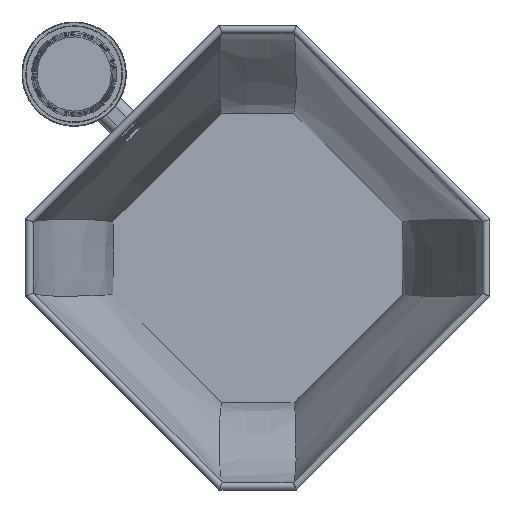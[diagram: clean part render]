
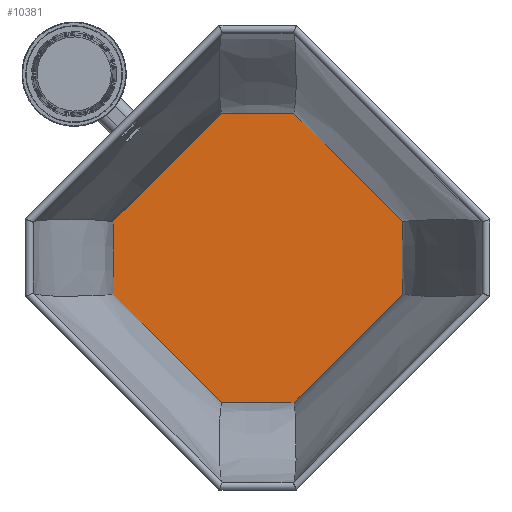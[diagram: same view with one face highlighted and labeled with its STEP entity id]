
A CAD part, top view. The second image highlights one B-rep face of the part: STEP entity #10381.
In plain terms, the highlighted planar face has unit normal (0, 0, 1).
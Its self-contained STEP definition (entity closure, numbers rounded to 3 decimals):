
#833=PLANE('',#11559);
#1330=FACE_OUTER_BOUND('',#1946,.T.);
#1946=EDGE_LOOP('',(#9669,#9670,#9671,#9672,#9673,#9674,#9675,#9676));
#2124=B_SPLINE_CURVE_WITH_KNOTS('',3,(#21186,#21187,#21188,#21189,#21190,
#21191),.UNSPECIFIED.,.F.,.F.,(4,2,4),(0.08,1.204,
2.328),.UNSPECIFIED.);
#2128=B_SPLINE_CURVE_WITH_KNOTS('',3,(#21224,#21225,#21226,#21227,#21228,
#21229),.UNSPECIFIED.,.F.,.F.,(4,2,4),(0.075,3.102,
6.129),.UNSPECIFIED.);
#2130=B_SPLINE_CURVE_WITH_KNOTS('',3,(#21253,#21254,#21255,#21256,#21257,
#21258),.UNSPECIFIED.,.F.,.F.,(4,2,4),(0.075,3.102,
6.129),.UNSPECIFIED.);
#2136=B_SPLINE_CURVE_WITH_KNOTS('',3,(#21304,#21305,#21306,#21307,#21308,
#21309),.UNSPECIFIED.,.F.,.F.,(4,2,4),(0.075,3.102,
6.129),.UNSPECIFIED.);
#2138=B_SPLINE_CURVE_WITH_KNOTS('',3,(#21333,#21334,#21335,#21336,#21337,
#21338),.UNSPECIFIED.,.F.,.F.,(4,2,4),(0.08,1.204,
2.328),.UNSPECIFIED.);
#2140=B_SPLINE_CURVE_WITH_KNOTS('',3,(#21362,#21363,#21364,#21365,#21366,
#21367),.UNSPECIFIED.,.F.,.F.,(4,2,4),(0.075,3.102,
6.129),.UNSPECIFIED.);
#2143=B_SPLINE_CURVE_WITH_KNOTS('',3,(#21395,#21396,#21397,#21398,#21399,
#21400),.UNSPECIFIED.,.F.,.F.,(4,2,4),(0.08,1.204,
2.328),.UNSPECIFIED.);
#2145=B_SPLINE_CURVE_WITH_KNOTS('',3,(#21423,#21424,#21425,#21426,#21427,
#21428),.UNSPECIFIED.,.F.,.F.,(4,2,4),(0.08,1.204,
2.328),.UNSPECIFIED.);
#5031=VERTEX_POINT('',#21178);
#5032=VERTEX_POINT('',#21185);
#5034=VERTEX_POINT('',#21223);
#5035=VERTEX_POINT('',#21252);
#5039=VERTEX_POINT('',#21296);
#5040=VERTEX_POINT('',#21303);
#5041=VERTEX_POINT('',#21332);
#5042=VERTEX_POINT('',#21361);
#6581=EDGE_CURVE('',#5032,#5031,#2124,.T.);
#6585=EDGE_CURVE('',#5034,#5032,#2128,.T.);
#6587=EDGE_CURVE('',#5031,#5035,#2130,.T.);
#6593=EDGE_CURVE('',#5040,#5039,#2136,.T.);
#6595=EDGE_CURVE('',#5041,#5040,#2138,.T.);
#6597=EDGE_CURVE('',#5042,#5041,#2140,.T.);
#6600=EDGE_CURVE('',#5035,#5042,#2143,.T.);
#6602=EDGE_CURVE('',#5039,#5034,#2145,.T.);
#9669=ORIENTED_EDGE('',*,*,#6593,.T.);
#9670=ORIENTED_EDGE('',*,*,#6602,.T.);
#9671=ORIENTED_EDGE('',*,*,#6585,.T.);
#9672=ORIENTED_EDGE('',*,*,#6581,.T.);
#9673=ORIENTED_EDGE('',*,*,#6587,.T.);
#9674=ORIENTED_EDGE('',*,*,#6600,.T.);
#9675=ORIENTED_EDGE('',*,*,#6597,.T.);
#9676=ORIENTED_EDGE('',*,*,#6595,.T.);
#10381=ADVANCED_FACE('',(#1330),#833,.T.);
#11559=AXIS2_PLACEMENT_3D('',#21765,#14518,#14519);
#14518=DIRECTION('center_axis',(0.,0.,1.));
#14519=DIRECTION('ref_axis',(1.,0.,0.));
#21178=CARTESIAN_POINT('',(-59.987,-5.299,1.35));
#21185=CARTESIAN_POINT('',(-59.987,17.175,1.35));
#21186=CARTESIAN_POINT('Ctrl Pts',(-59.987,17.175,1.35));
#21187=CARTESIAN_POINT('Ctrl Pts',(-59.987,13.429,1.35));
#21188=CARTESIAN_POINT('Ctrl Pts',(-59.987,9.683,1.35));
#21189=CARTESIAN_POINT('Ctrl Pts',(-59.987,2.192,1.35));
#21190=CARTESIAN_POINT('Ctrl Pts',(-59.987,-1.553,
1.35));
#21191=CARTESIAN_POINT('Ctrl Pts',(-59.987,-5.299,1.35));
#21223=CARTESIAN_POINT('',(-17.175,59.987,1.35));
#21224=CARTESIAN_POINT('Ctrl Pts',(-17.175,59.987,1.35));
#21225=CARTESIAN_POINT('Ctrl Pts',(-24.31,52.852,1.35));
#21226=CARTESIAN_POINT('Ctrl Pts',(-31.446,45.716,1.35));
#21227=CARTESIAN_POINT('Ctrl Pts',(-45.716,31.446,1.35));
#21228=CARTESIAN_POINT('Ctrl Pts',(-52.852,24.31,1.35));
#21229=CARTESIAN_POINT('Ctrl Pts',(-59.987,17.175,1.35));
#21252=CARTESIAN_POINT('',(-17.175,-48.112,1.35));
#21253=CARTESIAN_POINT('Ctrl Pts',(-59.987,-5.299,1.35));
#21254=CARTESIAN_POINT('Ctrl Pts',(-52.852,-12.434,
1.35));
#21255=CARTESIAN_POINT('Ctrl Pts',(-45.716,-19.57,1.35));
#21256=CARTESIAN_POINT('Ctrl Pts',(-31.446,-33.841,1.35));
#21257=CARTESIAN_POINT('Ctrl Pts',(-24.31,-40.976,
1.35));
#21258=CARTESIAN_POINT('Ctrl Pts',(-17.175,-48.112,1.35));
#21296=CARTESIAN_POINT('',(5.299,59.987,1.35));
#21303=CARTESIAN_POINT('',(48.112,17.175,1.35));
#21304=CARTESIAN_POINT('Ctrl Pts',(48.112,17.175,1.35));
#21305=CARTESIAN_POINT('Ctrl Pts',(40.976,24.31,1.35));
#21306=CARTESIAN_POINT('Ctrl Pts',(33.841,31.446,1.35));
#21307=CARTESIAN_POINT('Ctrl Pts',(19.57,45.716,1.35));
#21308=CARTESIAN_POINT('Ctrl Pts',(12.434,52.852,1.35));
#21309=CARTESIAN_POINT('Ctrl Pts',(5.299,59.987,1.35));
#21332=CARTESIAN_POINT('',(48.112,-5.299,1.35));
#21333=CARTESIAN_POINT('Ctrl Pts',(48.112,-5.299,1.35));
#21334=CARTESIAN_POINT('Ctrl Pts',(48.112,-1.553,1.35));
#21335=CARTESIAN_POINT('Ctrl Pts',(48.112,2.192,1.35));
#21336=CARTESIAN_POINT('Ctrl Pts',(48.112,9.683,1.35));
#21337=CARTESIAN_POINT('Ctrl Pts',(48.112,13.429,1.35));
#21338=CARTESIAN_POINT('Ctrl Pts',(48.112,17.175,1.35));
#21361=CARTESIAN_POINT('',(5.299,-48.112,1.35));
#21362=CARTESIAN_POINT('Ctrl Pts',(5.299,-48.112,1.35));
#21363=CARTESIAN_POINT('Ctrl Pts',(12.434,-40.976,1.35));
#21364=CARTESIAN_POINT('Ctrl Pts',(19.57,-33.841,1.35));
#21365=CARTESIAN_POINT('Ctrl Pts',(33.841,-19.57,1.35));
#21366=CARTESIAN_POINT('Ctrl Pts',(40.976,-12.434,1.35));
#21367=CARTESIAN_POINT('Ctrl Pts',(48.112,-5.299,1.35));
#21395=CARTESIAN_POINT('Ctrl Pts',(-17.175,-48.112,
1.35));
#21396=CARTESIAN_POINT('Ctrl Pts',(-13.429,-48.112,
1.35));
#21397=CARTESIAN_POINT('Ctrl Pts',(-9.683,-48.112,
1.35));
#21398=CARTESIAN_POINT('Ctrl Pts',(-2.192,-48.112,
1.35));
#21399=CARTESIAN_POINT('Ctrl Pts',(1.553,-48.112,1.35));
#21400=CARTESIAN_POINT('Ctrl Pts',(5.299,-48.112,1.35));
#21423=CARTESIAN_POINT('Ctrl Pts',(5.299,59.987,1.35));
#21424=CARTESIAN_POINT('Ctrl Pts',(1.553,59.987,1.35));
#21425=CARTESIAN_POINT('Ctrl Pts',(-2.192,59.987,1.35));
#21426=CARTESIAN_POINT('Ctrl Pts',(-9.683,59.987,1.35));
#21427=CARTESIAN_POINT('Ctrl Pts',(-13.429,59.987,1.35));
#21428=CARTESIAN_POINT('Ctrl Pts',(-17.175,59.987,1.35));
#21765=CARTESIAN_POINT('Origin',(-5.938,5.938,1.35));
